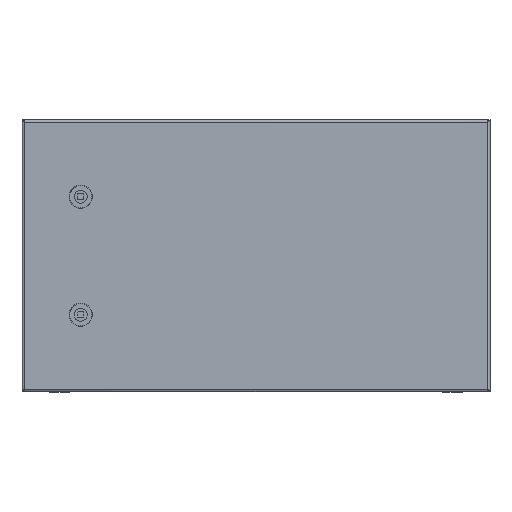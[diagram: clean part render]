
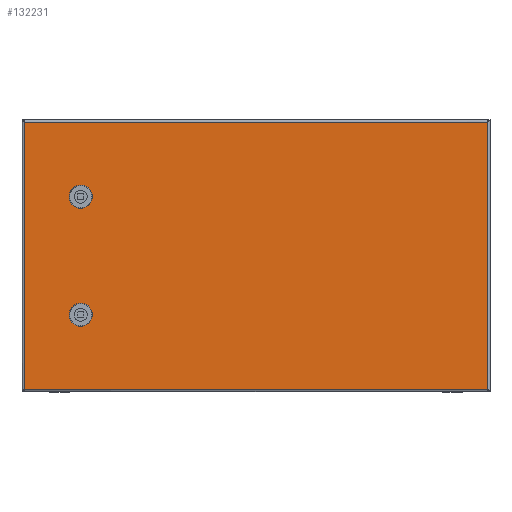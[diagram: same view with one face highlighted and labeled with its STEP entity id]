
A CAD part, top view. The second image highlights one B-rep face of the part: STEP entity #132231.
In plain terms, the highlighted planar face has unit normal (0, 0, 1).
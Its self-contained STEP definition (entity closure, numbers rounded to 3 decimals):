
#131376=CARTESIAN_POINT(' ',(2.8,0.8,0.));
#131381=DIRECTION(' ',(1.,0.,0.));
#131386=VECTOR(' ',#131381,1.);
#131391=LINE('',#131376,#131386);
#131396=CARTESIAN_POINT(' ',(2.8,0.8,0.));
#131397=VERTEX_POINT(' ',#131396);
#131401=CARTESIAN_POINT(' ',(591.2,0.8,0.));
#131402=VERTEX_POINT(' ',#131401);
#131406=EDGE_CURVE(' ',#131397,#131402,#131391,.T.);
#132091=DIRECTION(' ',(-0.,-0.,1.));
#132096=CARTESIAN_POINT(' ',(591.2,0.8,0.));
#132101=DIRECTION(' ',(0.,1.,0.));
#132106=AXIS2_PLACEMENT_3D(' ',#132096,#132091,#132101);
#132111=PLANE('NONE',#132106);
#132116=ORIENTED_EDGE(' ',*,*,#131406,.T.);
#132121=CARTESIAN_POINT(' ',(591.2,340.2,0.));
#132126=DIRECTION(' ',(0.,-1.,0.));
#132131=VECTOR(' ',#132126,1.);
#132136=LINE('',#132121,#132131);
#132141=CARTESIAN_POINT(' ',(591.2,340.2,0.));
#132142=VERTEX_POINT(' ',#132141);
#132146=EDGE_CURVE(' ',#132142,#131402,#132136,.T.);
#132151=ORIENTED_EDGE(' ',*,*,#132146,.F.);
#132156=CARTESIAN_POINT(' ',(591.2,340.2,0.));
#132161=DIRECTION(' ',(-1.,0.,0.));
#132166=VECTOR(' ',#132161,1.);
#132171=LINE('',#132156,#132166);
#132176=CARTESIAN_POINT(' ',(2.8,340.2,0.));
#132177=VERTEX_POINT(' ',#132176);
#132181=EDGE_CURVE(' ',#132142,#132177,#132171,.T.);
#132186=ORIENTED_EDGE(' ',*,*,#132181,.T.);
#132191=CARTESIAN_POINT(' ',(2.8,340.2,0.));
#132196=DIRECTION(' ',(0.,-1.,0.));
#132201=VECTOR(' ',#132196,1.);
#132206=LINE('',#132191,#132201);
#132211=EDGE_CURVE(' ',#132177,#131397,#132206,.T.);
#132216=ORIENTED_EDGE(' ',*,*,#132211,.T.);
#132221=EDGE_LOOP(' ',(#132116,#132151,#132186,#132216));
#132226=FACE_OUTER_BOUND(' ',#132221,.T.);
#132231=ADVANCED_FACE('NONE',(#132226),#132111,.T.);
